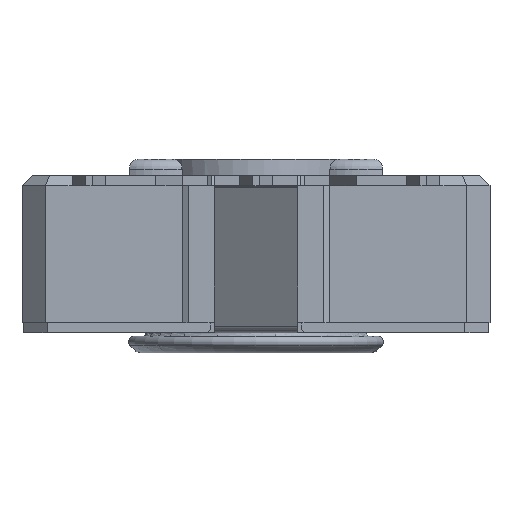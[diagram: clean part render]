
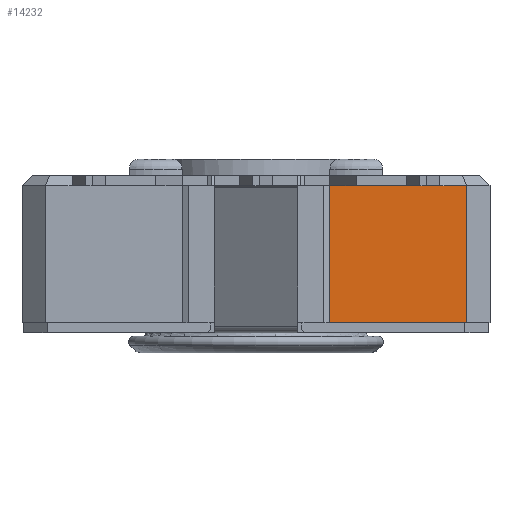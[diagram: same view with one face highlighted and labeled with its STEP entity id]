
A CAD part, front view. The second image highlights one B-rep face of the part: STEP entity #14232.
In plain terms, the highlighted planar face has unit normal (0, -1, 0).
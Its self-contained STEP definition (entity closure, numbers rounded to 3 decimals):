
#1298=FACE_OUTER_BOUND('',#2034,.T.);
#2034=EDGE_LOOP('',(#12221,#12222,#12223,#12224,#12225,#12226));
#2094=LINE('',#19053,#3653);
#2318=LINE('',#19698,#3877);
#2921=LINE('',#21503,#4480);
#3195=LINE('',#22399,#4754);
#3587=LINE('',#23241,#5146);
#3589=LINE('',#23245,#5148);
#3653=VECTOR('',#15379,10.);
#3877=VECTOR('',#15949,10.);
#4480=VECTOR('',#17292,10.);
#4754=VECTOR('',#17990,10.);
#5146=VECTOR('',#18850,10.);
#5148=VECTOR('',#18856,10.);
#5214=VERTEX_POINT('',#19051);
#5215=VERTEX_POINT('',#19052);
#5409=VERTEX_POINT('',#19697);
#5958=VERTEX_POINT('',#21500);
#5959=VERTEX_POINT('',#21502);
#6229=VERTEX_POINT('',#22394);
#6489=EDGE_CURVE('',#5214,#5215,#2094,.T.);
#6785=EDGE_CURVE('',#5409,#5214,#2318,.T.);
#7573=EDGE_CURVE('',#5958,#5959,#2921,.T.);
#7957=EDGE_CURVE('',#5409,#6229,#3195,.T.);
#8374=EDGE_CURVE('',#5215,#5959,#3587,.T.);
#8376=EDGE_CURVE('',#5958,#6229,#3589,.T.);
#12221=ORIENTED_EDGE('',*,*,#7957,.F.);
#12222=ORIENTED_EDGE('',*,*,#6785,.T.);
#12223=ORIENTED_EDGE('',*,*,#6489,.T.);
#12224=ORIENTED_EDGE('',*,*,#8374,.T.);
#12225=ORIENTED_EDGE('',*,*,#7573,.F.);
#12226=ORIENTED_EDGE('',*,*,#8376,.T.);
#12890=PLANE('',#15287);
#14232=ADVANCED_FACE('',(#1298),#12890,.T.);
#15287=AXIS2_PLACEMENT_3D('',#23244,#18854,#18855);
#15379=DIRECTION('',(-1.,0.,0.));
#15949=DIRECTION('',(-1.,0.,0.));
#17292=DIRECTION('',(-1.,0.,0.));
#17990=DIRECTION('',(1.,0.,0.));
#18850=DIRECTION('',(0.,0.,-1.));
#18854=DIRECTION('center_axis',(0.,-1.,0.));
#18855=DIRECTION('ref_axis',(0.,0.,-1.));
#18856=DIRECTION('',(0.,0.,1.));
#19051=CARTESIAN_POINT('',(4.7,-6.95,1.875));
#19052=CARTESIAN_POINT('',(2.2,-6.95,1.875));
#19053=CARTESIAN_POINT('',(5.072,-6.95,1.875));
#19697=CARTESIAN_POINT('',(5.225,-6.95,1.875));
#19698=CARTESIAN_POINT('',(5.072,-6.95,1.875));
#21500=CARTESIAN_POINT('',(6.3,-6.95,-2.225));
#21502=CARTESIAN_POINT('',(2.2,-6.95,-2.225));
#21503=CARTESIAN_POINT('',(6.3,-6.95,-2.225));
#22394=CARTESIAN_POINT('',(6.3,-6.95,1.875));
#22399=CARTESIAN_POINT('',(3.15,-6.95,1.875));
#23241=CARTESIAN_POINT('',(2.2,-6.95,-2.225));
#23244=CARTESIAN_POINT('Origin',(6.3,-6.95,-2.225));
#23245=CARTESIAN_POINT('',(6.3,-6.95,-2.225));
